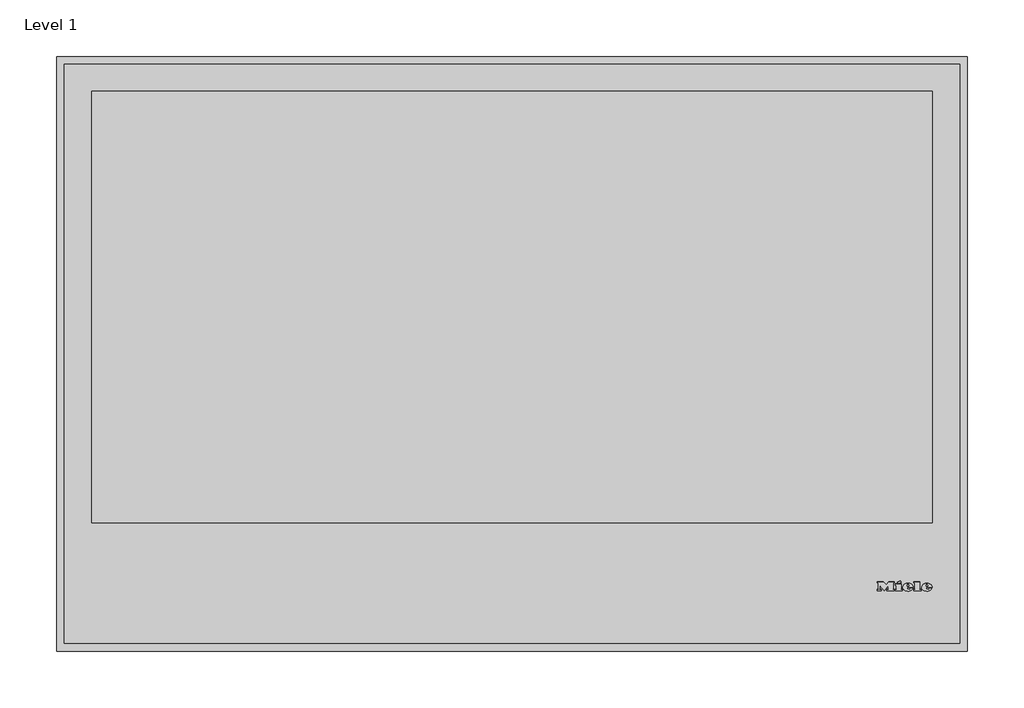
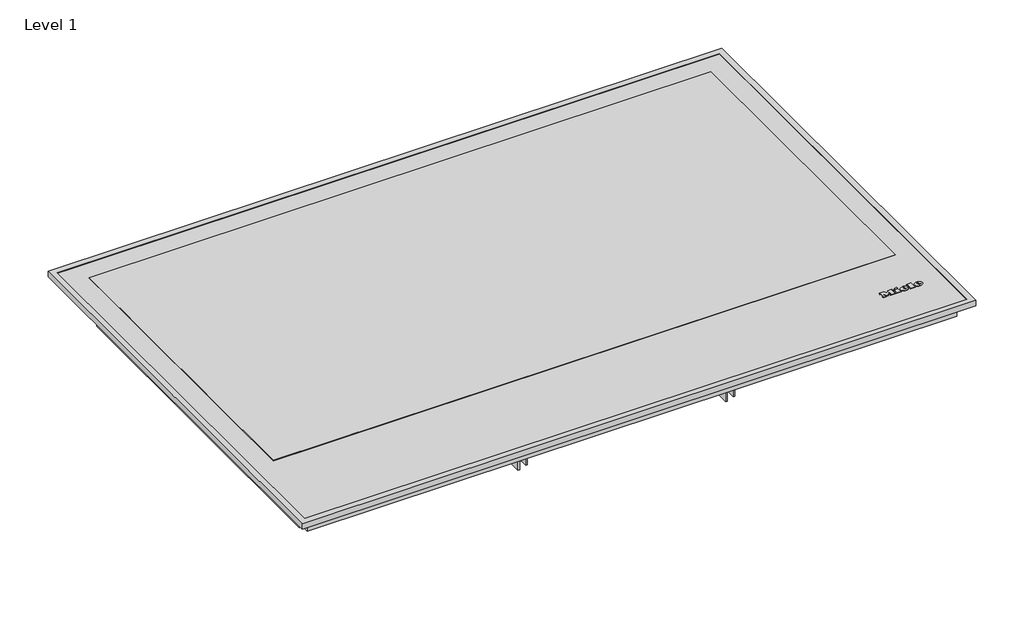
# One storey: 1 proxy.
"""IFC4 building model written with IfcOpenShell, lengths in millimetres."""

from ifc_helpers import new_model, si_unit, origin, place, context, project, spatial, transform, mapped, element, save
from components import specialty_equipment_bfc486c6

model = new_model("IFC4")

# Units and contexts
model_context = context("Model", 3, world=origin())
ifc_project = project(units=[si_unit("LENGTHUNIT", "METRE", prefix="MILLI")], contexts=[model_context])

# Site, building, storey
site = spatial("IfcSite", under=ifc_project)
building = spatial("IfcBuilding", under=site)
storey = spatial("IfcBuildingStorey", under=building, Name="Level 1", Elevation=0.0)

# Proxy
placement = place(None, origin())
specialty_equipment_shape = specialty_equipment_bfc486c6(model_context)
element("IfcBuildingElementProxy", 1, Name="11128740_D_KM7678FR : 26767800_D_11128740_KM7678FR", ObjectType="11128740_D_KM7678FR : 26767800_D_11128740_KM7678FR", at=placement, inside=storey, context=model_context, shape_type="MappedRepresentation", body=[
    mapped(specialty_equipment_shape, transform((0.0, 0.0, 0.0), x_axis=(1.0, 0.0, 0.0), y_axis=(0.0, 1.0, 0.0), z_axis=(0.0, 0.0, 1.0))),
])

save(model, "model.ifc")
